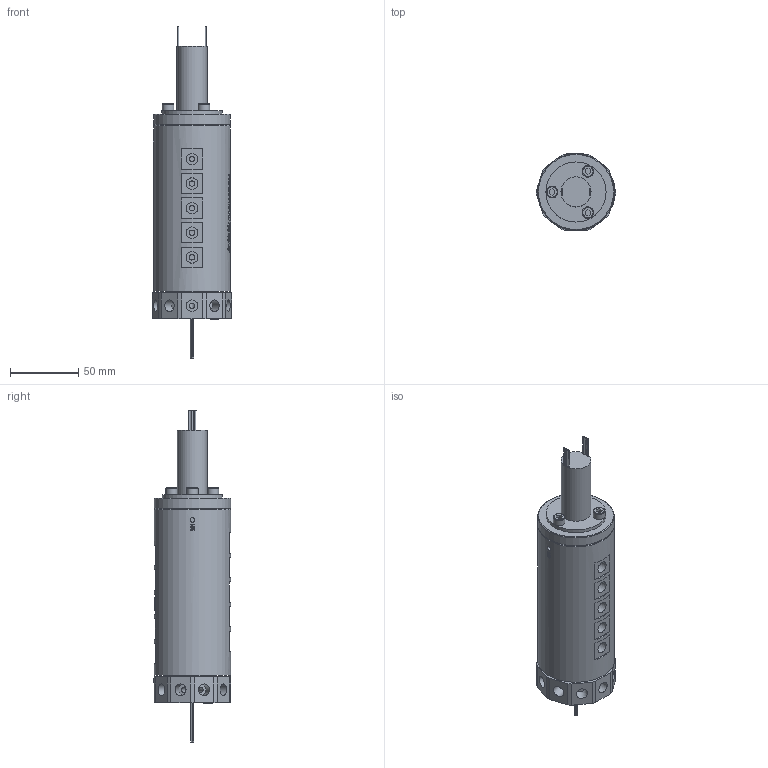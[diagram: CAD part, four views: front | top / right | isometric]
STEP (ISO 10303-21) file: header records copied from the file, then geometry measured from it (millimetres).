
FILE_DESCRIPTION(/* description */ (''),/* implementation_level */ '2;1');
FILE_NAME(/* name */ 'YQ1001-32M.stp',/* time_stamp */ '2025-02-15T15:35:16+08:00',/* author */ (''),/* organization */ (''),/* preprocessor_version */ 'ST-DEVELOPER v16.7',/* originating_system */ 'SIEMENS PLM Software NX 12.0',/* authorisation */ '');
FILE_SCHEMA (('AUTOMOTIVE_DESIGN { 1 0 10303 214 3 1 1 1 }'));
Products named in the file (1): HX0527348ECCpcjw
Bounding box: 57.99 x 56.5 x 243.3 mm (x, y, z)
Volume: 369949 mm3; surface area: 56835.4 mm2
Topology: 1 solids, 4 shells, 1362 faces, 3581 edges, 2412 vertices
Faces by surface type: extrusion 624, plane 546, cylinder 149, bspline 33, cone 7, torus 3
Full cylindrical faces by diameter (mm): 0.8 x16, 3.4 x6, 4 x30, 4.1 x10, 4.2 x10, 5 x3, 5.5 x3, 7.8 x1, 8 x1, 8.5 x23, 22 x1, 34 x1, 44 x1, 56 x2
Entity records: 49453 total; most frequent: CARTESIAN_POINT 20940, ORIENTED_EDGE 6748, DIRECTION 3532, EDGE_CURVE 3374, B_SPLINE_CURVE_WITH_KNOTS 2919, VERTEX_POINT 2337, EDGE_LOOP 1675, ADVANCED_FACE 1359
